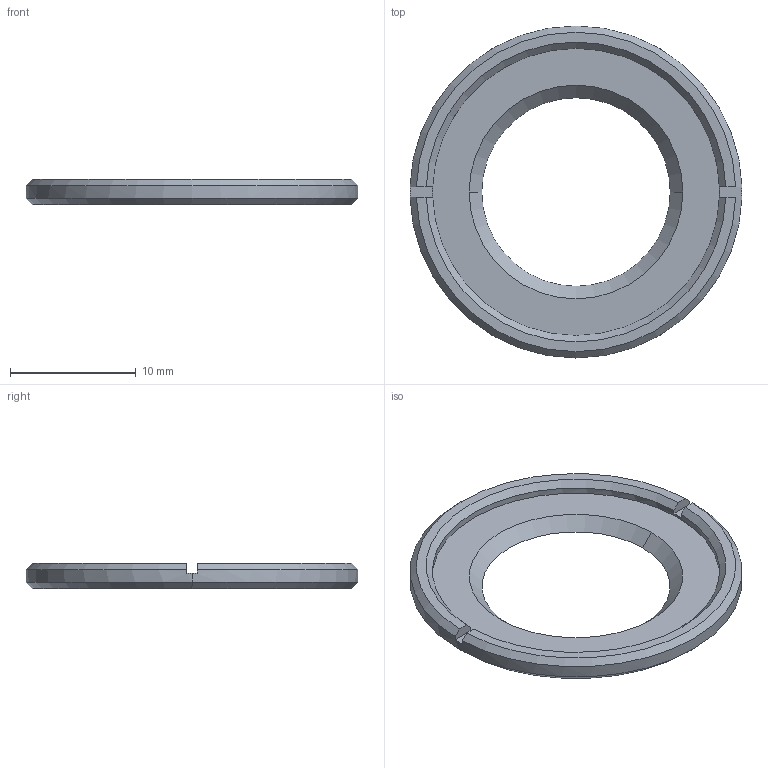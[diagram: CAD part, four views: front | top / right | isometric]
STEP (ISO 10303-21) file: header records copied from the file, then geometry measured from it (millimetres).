
FILE_DESCRIPTION (( 'STEP AP214' ), '1' );
FILE_NAME ('2023-29 - 15mm pinhole.STEP', '2024-11-20T07:25:06', ( '' ), ( '' ), 'SwSTEP 2.0', 'SolidWorks 2025', '' );
FILE_SCHEMA (( 'AUTOMOTIVE_DESIGN' ));
Length unit declared in the file: millimetre
Products named in the file (1): 2023-29 - 15mm pinhole
Bounding box: 26.42 x 26.42 x 2 mm (x, y, z)
Volume: 452.9 mm3; surface area: 934.4 mm2
Topology: 1 solids, 1 shells, 22 faces, 58 edges, 38 vertices
Faces by surface type: plane 10, cone 8, cylinder 4
Entity records: 727 total; most frequent: CARTESIAN_POINT 143, DIRECTION 122, ORIENTED_EDGE 116, EDGE_CURVE 58, AXIS2_PLACEMENT_3D 49, VERTEX_POINT 38, CIRCLE 26, EDGE_LOOP 24
